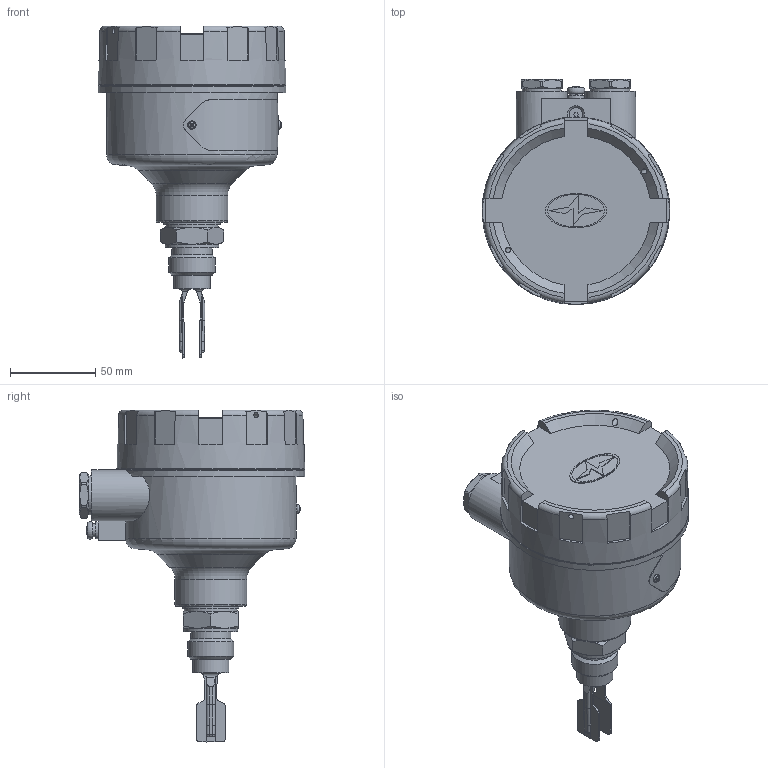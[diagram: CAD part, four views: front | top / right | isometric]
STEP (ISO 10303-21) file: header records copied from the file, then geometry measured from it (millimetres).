
FILE_DESCRIPTION(('STEP AP242'), '1');
FILE_NAME('ﾑﾂ-11 ﾌ11 ﾀﾃ-22 20 Pn Ni', '', ('UNSPECIFIED'), ('UNSPECIFIED'), 'C3D Converter', 'C3D Toolkit', '');
FILE_SCHEMA(('AP242_MANAGED_MODEL_BASED_3D_ENGINEERING_MIM_LF { 1 0 10303 442 1 1 4 }'));
Length unit declared in the file: millimetre
Bounding box: 109.95 x 132 x 194.5 mm (x, y, z)
Volume: 359901.8 mm3; surface area: 119899.3 mm2
Topology: 1 solids, 22 shells, 641 faces, 1629 edges, 1033 vertices
Faces by surface type: plane 268, cylinder 181, cone 167, torus 14, bspline 8, sphere 3
Full cylindrical faces by diameter (mm): 2.4 x7, 3 x4, 3.2 x2, 5 x1, 6 x1, 9 x1, 10 x2, 13 x2, 14 x2, 16 x1, 18 x5, 20 x16, 21.3 x1, 22 x2, 23 x2, 23.5 x1, 27 x6, 28 x1, 30 x2, 31 x1, 31.5 x1, 33 x1, 40 x1, 42 x1, 90 x1, 97 x1, 97.8 x2, 102.5 x1
Entity records: 32180 total; most frequent: CARTESIAN_POINT 17825, DIRECTION 2850, ORIENTED_EDGE 2812, EDGE_CURVE 1406, AXIS2_PLACEMENT_3D 1189, VERTEX_POINT 1016, EDGE_LOOP 902, FACE_BOUND 657
